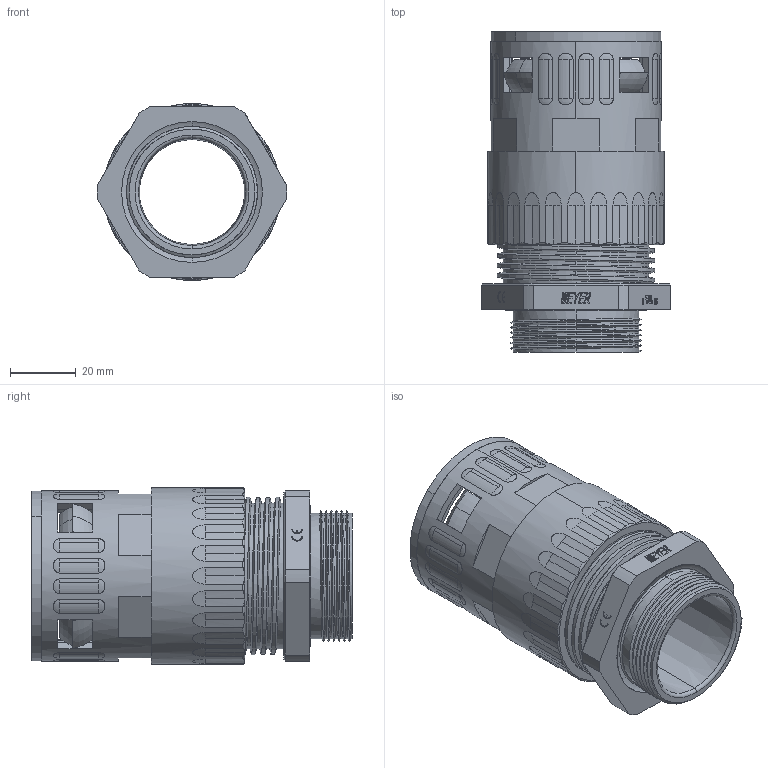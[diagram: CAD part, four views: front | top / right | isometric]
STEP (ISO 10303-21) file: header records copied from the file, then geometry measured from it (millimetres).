
FILE_DESCRIPTION (( 'STEP AP203' ), '1' );
FILE_NAME ('WQGZ-M40-AD42.STEP', '2018-09-13T07:36:26', ( '' ), ( '' ), 'SwSTEP 2.0', 'SolidWorks 2016', '' );
FILE_SCHEMA (( 'CONFIG_CONTROL_DESIGN' ));
Length unit declared in the file: millimetre
Products named in the file (8): WQGZ-M40-AD42; WQG2-Tr28-AD42.5; GFD-AD42.5; HSK-M40-01; NSK-AD42.5; 蚾饜极1; CTH-P36
Assembly tree (7 placements, depth 3):
  WQGZ-M40-AD42
    WQG2-Tr28-AD42.5
      WQG2-Tr28-AD42.5
      GFD-AD42.5
      NSK-AD42.5
    蚾饜极1
      HSK-M40-01
      CTH-P36
Bounding box: 57.99 x 97.9 x 54 mm (x, y, z)
Volume: 86527.4 mm3; surface area: 60010.7 mm2
Topology: 5 solids, 5 shells, 706 faces, 1924 edges, 1207 vertices
Faces by surface type: plane 311, cylinder 156, cone 90, torus 60, sphere 56, bspline 33
Entity records: 28100 total; most frequent: CARTESIAN_POINT 10252, ORIENTED_EDGE 3672, DIRECTION 3443, EDGE_CURVE 1836, AXIS2_PLACEMENT_3D 1281, VERTEX_POINT 1175, LINE 881, VECTOR 881
